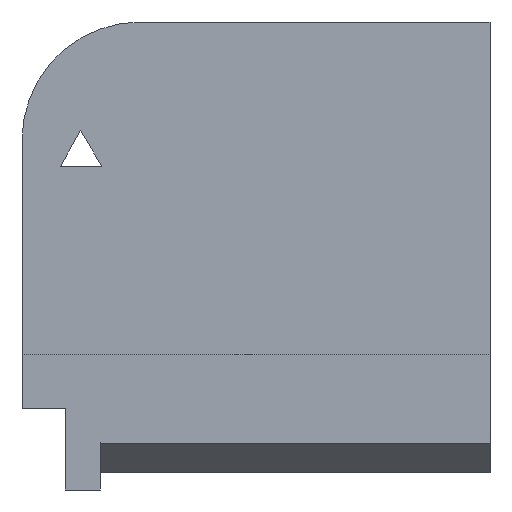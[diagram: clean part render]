
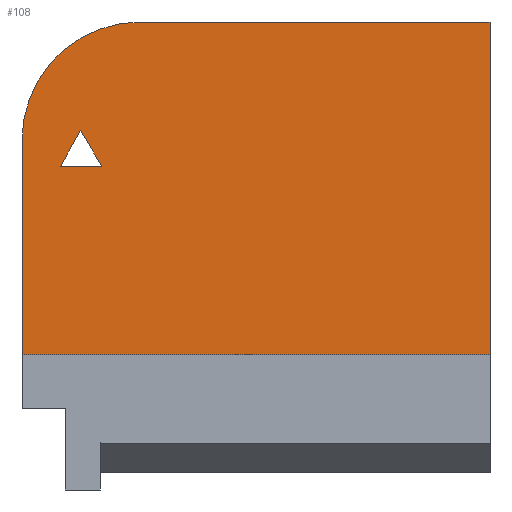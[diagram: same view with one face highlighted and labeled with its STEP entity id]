
A CAD part, front view. The second image highlights one B-rep face of the part: STEP entity #108.
In plain terms, the highlighted planar face has unit normal (0, -1, 0).
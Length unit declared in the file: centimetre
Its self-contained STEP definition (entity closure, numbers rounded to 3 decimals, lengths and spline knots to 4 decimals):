
#30 = DIRECTION ( 'NONE',  ( 1., 0., 0. ) ) ;
#31 = CARTESIAN_POINT ( 'NONE',  ( 0., 0., 1000. ) ) ;
#50 = ORIENTED_EDGE ( 'NONE', *, *, #646, .T. ) ;
#57 = CARTESIAN_POINT ( 'NONE',  ( 170.6196, 0., 691.9165 ) ) ;
#108 = ADVANCED_FACE ( 'NONE', ( #152, #273 ), #692, .F. ) ;
#126 = ORIENTED_EDGE ( 'NONE', *, *, #236, .T. ) ;
#143 = VERTEX_POINT ( 'NONE', #523 ) ;
#145 = DIRECTION ( 'NONE',  ( 0., 0., -1. ) ) ;
#152 = FACE_BOUND ( 'NONE', #716, .T. ) ;
#158 = EDGE_CURVE ( 'NONE', #143, #380, #335, .T. ) ;
#159 = DIRECTION ( 'NONE',  ( 0., 0., -1. ) ) ;
#162 = EDGE_CURVE ( 'NONE', #225, #552, #191, .T. ) ;
#172 = ORIENTED_EDGE ( 'NONE', *, *, #162, .T. ) ;
#191 = CIRCLE ( 'NONE', #640, 252.5216 ) ;
#193 = LINE ( 'NONE', #57, #351 ) ;
#208 = EDGE_CURVE ( 'NONE', #552, #445, #742, .T. ) ;
#210 = CARTESIAN_POINT ( 'NONE',  ( 125.1397, 0., 767.743 ) ) ;
#225 = VERTEX_POINT ( 'NONE', #585 ) ;
#230 = VECTOR ( 'NONE', #30, 100. ) ;
#236 = EDGE_CURVE ( 'NONE', #445, #380, #399, .T. ) ;
#243 = DIRECTION ( 'NONE',  ( 1., 0., 0. ) ) ;
#268 = EDGE_CURVE ( 'NONE', #688, #441, #578, .T. ) ;
#269 = ORIENTED_EDGE ( 'NONE', *, *, #454, .F. ) ;
#273 = FACE_OUTER_BOUND ( 'NONE', #378, .T. ) ;
#289 = DIRECTION ( 'NONE',  ( 0., 0., 1. ) ) ;
#292 = VECTOR ( 'NONE', #632, 100. ) ;
#310 = CARTESIAN_POINT ( 'NONE',  ( 170.6196, 0., 691.9165 ) ) ;
#318 = ORIENTED_EDGE ( 'NONE', *, *, #208, .T. ) ;
#321 = VERTEX_POINT ( 'NONE', #589 ) ;
#335 = LINE ( 'NONE', #461, #513 ) ;
#347 = CARTESIAN_POINT ( 'NONE',  ( 0., 0., 289.3836 ) ) ;
#351 = VECTOR ( 'NONE', #650, 100. ) ;
#378 = EDGE_LOOP ( 'NONE', ( #318, #126, #680, #269, #172 ) ) ;
#380 = VERTEX_POINT ( 'NONE', #524 ) ;
#392 = DIRECTION ( 'NONE',  ( 0.493, 0., 0.87 ) ) ;
#399 = LINE ( 'NONE', #347, #230 ) ;
#401 = DIRECTION ( 'NONE',  ( 0., 0., 1. ) ) ;
#407 = DIRECTION ( 'NONE',  ( 0., -1., 0. ) ) ;
#427 = CARTESIAN_POINT ( 'NONE',  ( 0., 0., 747.4784 ) ) ;
#441 = VERTEX_POINT ( 'NONE', #592 ) ;
#445 = VERTEX_POINT ( 'NONE', #541 ) ;
#454 = EDGE_CURVE ( 'NONE', #225, #143, #529, .T. ) ;
#461 = CARTESIAN_POINT ( 'NONE',  ( 1000., 0., 1000. ) ) ;
#513 = VECTOR ( 'NONE', #159, 100. ) ;
#515 = DIRECTION ( 'NONE',  ( 0., 1., 0. ) ) ;
#523 = CARTESIAN_POINT ( 'NONE',  ( 1000., 0., 1000. ) ) ;
#524 = CARTESIAN_POINT ( 'NONE',  ( 1000., 0., 289.3836 ) ) ;
#529 = LINE ( 'NONE', #593, #604 ) ;
#541 = CARTESIAN_POINT ( 'NONE',  ( 0., 0., 289.3836 ) ) ;
#545 = AXIS2_PLACEMENT_3D ( 'NONE', #31, #515, #401 ) ;
#552 = VERTEX_POINT ( 'NONE', #427 ) ;
#578 = LINE ( 'NONE', #700, #292 ) ;
#585 = CARTESIAN_POINT ( 'NONE',  ( 252.5216, 0., 1000. ) ) ;
#589 = CARTESIAN_POINT ( 'NONE',  ( 125.1397, 0., 767.743 ) ) ;
#591 = CARTESIAN_POINT ( 'NONE',  ( 252.5216, 0., 747.4784 ) ) ;
#592 = CARTESIAN_POINT ( 'NONE',  ( 82.2119, 0., 691.9165 ) ) ;
#593 = CARTESIAN_POINT ( 'NONE',  ( 0., 0., 1000. ) ) ;
#604 = VECTOR ( 'NONE', #243, 100. ) ;
#615 = ORIENTED_EDGE ( 'NONE', *, *, #268, .T. ) ;
#631 = VECTOR ( 'NONE', #145, 100. ) ;
#632 = DIRECTION ( 'NONE',  ( -1., 0., 0. ) ) ;
#640 = AXIS2_PLACEMENT_3D ( 'NONE', #591, #407, #289 ) ;
#646 = EDGE_CURVE ( 'NONE', #441, #321, #735, .T. ) ;
#650 = DIRECTION ( 'NONE',  ( 0.514, 0., -0.858 ) ) ;
#675 = ORIENTED_EDGE ( 'NONE', *, *, #770, .T. ) ;
#680 = ORIENTED_EDGE ( 'NONE', *, *, #158, .F. ) ;
#684 = CARTESIAN_POINT ( 'NONE',  ( 0., 0., 1000. ) ) ;
#688 = VERTEX_POINT ( 'NONE', #310 ) ;
#692 = PLANE ( 'NONE',  #545 ) ;
#698 = VECTOR ( 'NONE', #392, 100. ) ;
#700 = CARTESIAN_POINT ( 'NONE',  ( 82.2119, 0., 691.9165 ) ) ;
#716 = EDGE_LOOP ( 'NONE', ( #675, #615, #50 ) ) ;
#735 = LINE ( 'NONE', #210, #698 ) ;
#742 = LINE ( 'NONE', #684, #631 ) ;
#770 = EDGE_CURVE ( 'NONE', #321, #688, #193, .T. ) ;
